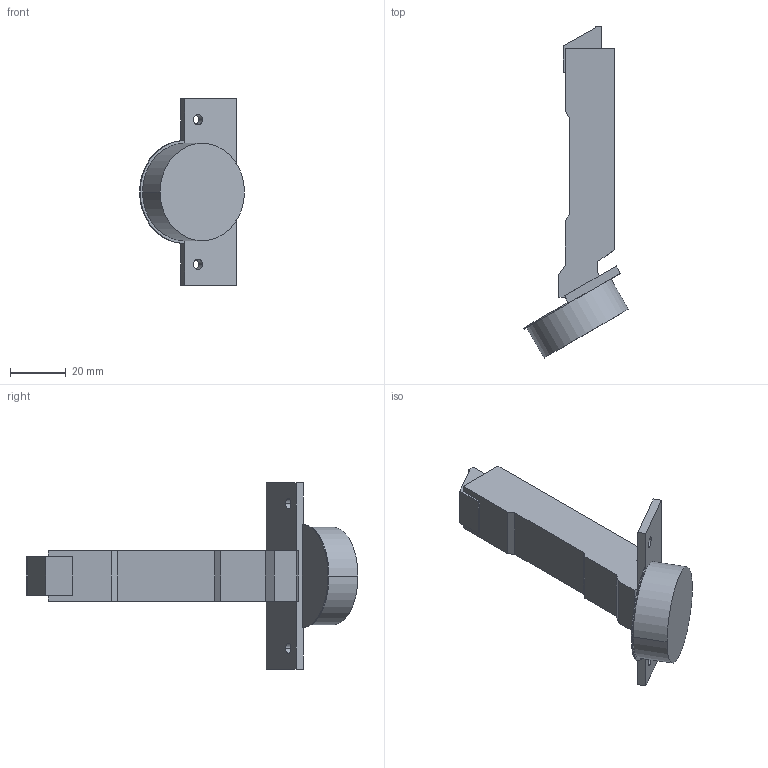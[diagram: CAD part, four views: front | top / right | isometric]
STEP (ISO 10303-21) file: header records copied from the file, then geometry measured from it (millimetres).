
FILE_DESCRIPTION (( 'STEP AP214' ), '1' );
FILE_NAME ('Scharnier TS Click-on 120°_-30° H_BB, aufliegend.step', '2010-12-13T09:57:57', ( 'grass' ), ( '' ), 'SwSTEP 2.0', 'SolidWorks 2010', '' );
FILE_SCHEMA (( 'AUTOMOTIVE_DESIGN' ));
Length unit declared in the file: millimetre
Products named in the file (1): Scharnier TS Click-on 120°_-30° H_BB, aufliegend
Bounding box: 37.68 x 119.25 x 67 mm (x, y, z)
Volume: 43433.6 mm3; surface area: 12460.4 mm2
Topology: 1 solids, 1 shells, 49 faces, 129 edges, 86 vertices
Faces by surface type: plane 36, cylinder 13
Entity records: 1551 total; most frequent: CARTESIAN_POINT 265, ORIENTED_EDGE 258, DIRECTION 255, EDGE_CURVE 129, VECTOR 103, LINE 103, VERTEX_POINT 86, AXIS2_PLACEMENT_3D 76
